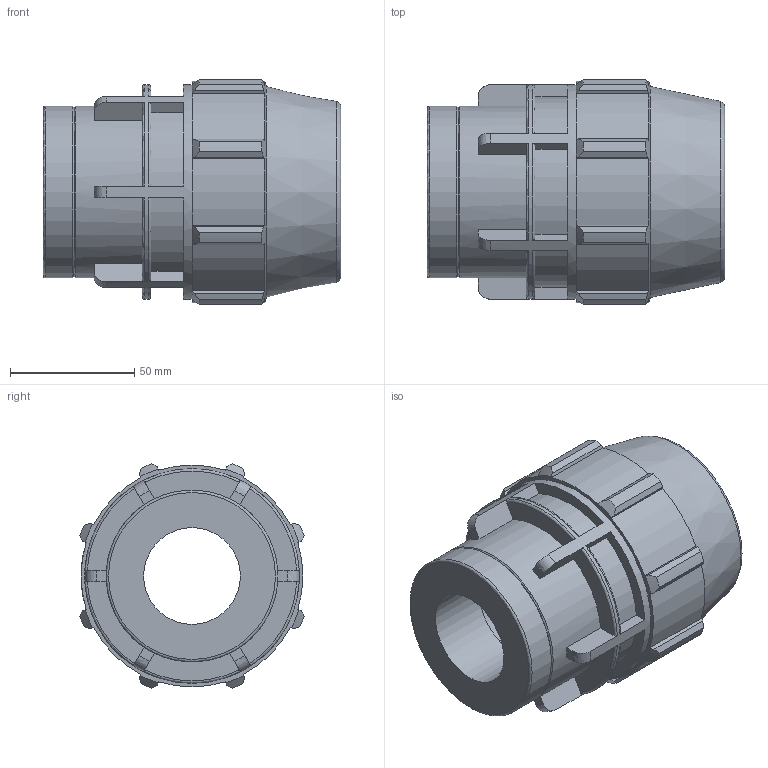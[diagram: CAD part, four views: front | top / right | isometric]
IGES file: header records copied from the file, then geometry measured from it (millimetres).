
Global section: file name: 0703M0T15013.ipt; native system: Autodesk Inventor 2019; preprocessor: unknown; author: KIM; date: 20210826.124523; units: inch
Bounding box: 119.89 x 90.34 x 90.34 mm (x, y, z)
Volume: 388956.3 mm3; surface area: 61999.9 mm2
Topology: 1 solids, 1 shells, 148 faces, 413 edges, 277 vertices
Faces by surface type: plane 86, revolution 25, cylinder 25, cone 12
Full cylindrical faces by diameter (mm): 69.129 x2, 86.411 x1
